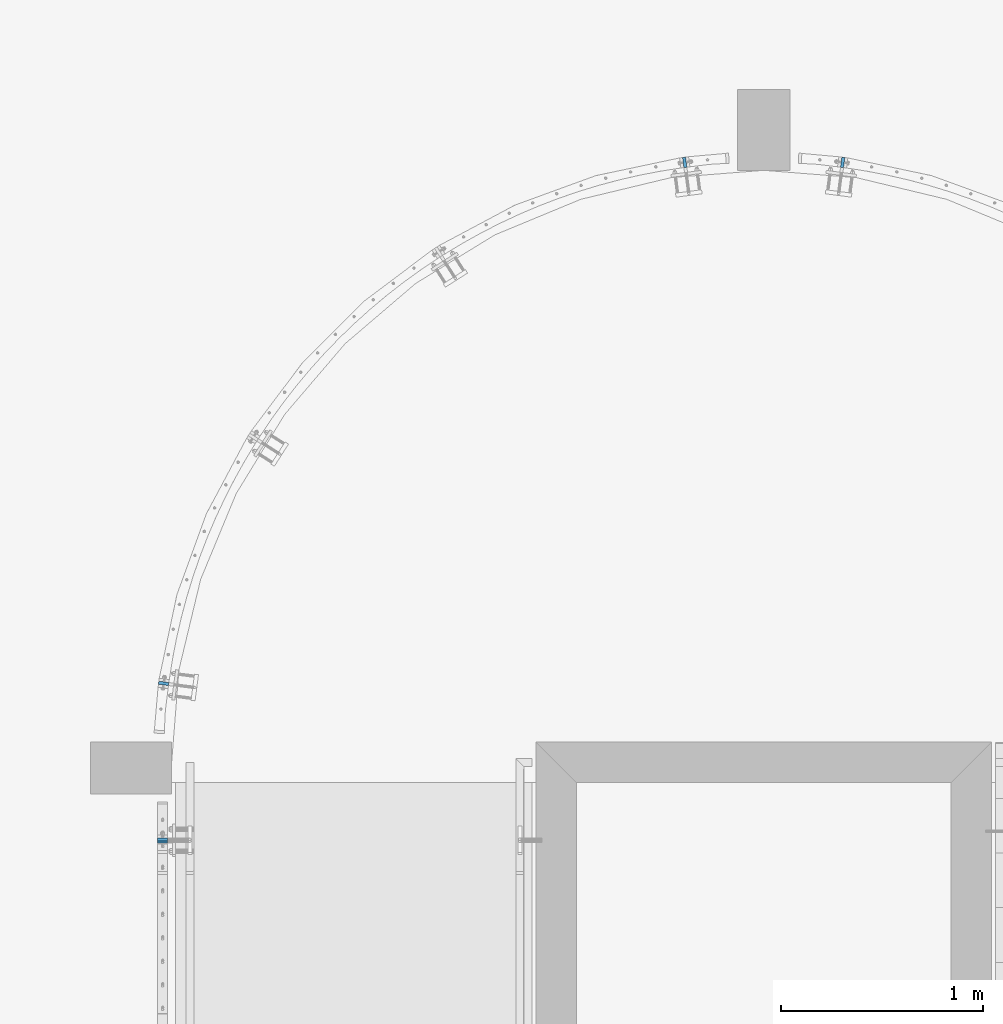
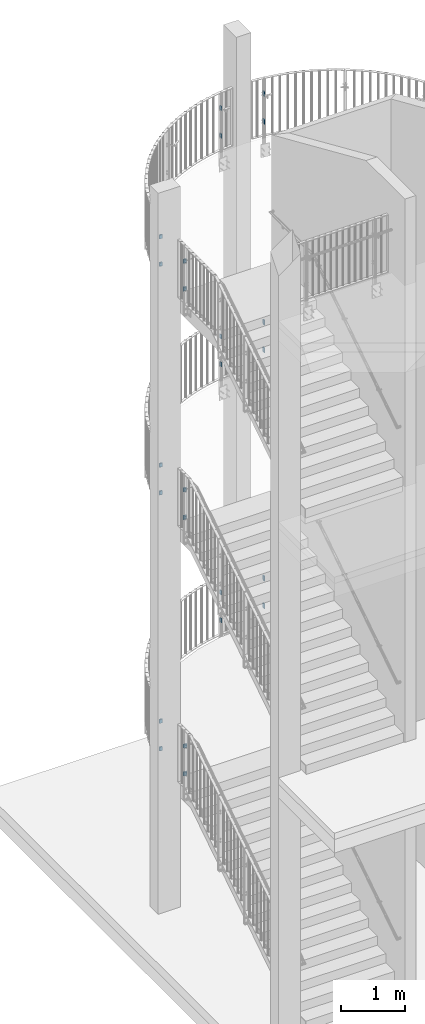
# One storey, part 124 of 296: 24 plates, 48 openings.
"""IFC2X3 building model written with IfcOpenShell, lengths in millimetres."""

import ifcopenshell
import ifcopenshell.guid

model = None  # the IFC model being written
_history = None  # IfcOwnerHistory: only IFC2X3 demands one
_inside = {}  # id of a spatial element -> (the spatial element, [elements in it])
_under = {}  # id of a project, library or spatial element -> (it, [spatial elements below it])
_declared = {}  # id of a project -> (the project, [libraries it declares])
_typed = {}  # id of a type object -> (the type object, [elements of that type])
_made_of = {}  # id of a material, layer set ... -> (it, [elements and type objects made of it])


def new_model(schema):
    """Start an empty IFC model of exactly this schema.

    Asked for "IFC4X3", IfcOpenShell would pick the latest addendum, in which some entities
    have other attributes; the version numbers below select the first issue.
    IFC2X3 requires an IfcOwnerHistory on every rooted entity: one is made here for all.
    """
    global model, _history
    if schema == "IFC4X3":
        model = ifcopenshell.file(schema_version=(4, 3, 0, 0))
    else:
        model = ifcopenshell.file(schema=schema)
    _inside.clear()
    _under.clear()
    _declared.clear()
    _typed.clear()
    _made_of.clear()
    _history = None
    if model.schema == "IFC2X3":
        org = make("IfcOrganization", Name="unknown")
        user = make(
            "IfcPersonAndOrganization",
            ThePerson=make("IfcPerson", FamilyName="unknown"),
            TheOrganization=org,
        )
        app = make(
            "IfcApplication",
            ApplicationDeveloper=org,
            Version="unknown",
            ApplicationFullName="unknown",
            ApplicationIdentifier="unknown",
        )
        _history = make(
            "IfcOwnerHistory",
            OwningUser=user,
            OwningApplication=app,
            ChangeAction="ADDED",
            CreationDate=0,
        )
    return model


def make(cls, **values):
    """One entity of the class cls with the attributes given. An attribute that is None is left unset."""
    return model.create_entity(
        cls, **{name: value for name, value in values.items() if value is not None}
    )


def entity(cls, *values):
    """Any entity or typed value of the class cls, its attributes in the order of the schema. None: left unset."""
    e = model.create_entity(cls)
    for i, value in enumerate(values):
        if value is not None:
            e[i] = value
    return e


def rooted(cls, **values):
    """An entity with a GlobalId (a new one), such as an element, a storey or a relation."""
    return make(cls, GlobalId=ifcopenshell.guid.new(), OwnerHistory=_history, **values)


def si_unit(unit_type, name, prefix=None):
    """IfcSIUnit, for example si_unit("LENGTHUNIT", "METRE", prefix="MILLI")."""
    return make("IfcSIUnit", UnitType=unit_type, Prefix=prefix, Name=name)


def converted_unit(unit_type, name, factor, base, dimensions=None, offset=None):
    """IfcConversionBasedUnit, such as the inch: factor (a typed value) times the base unit."""
    return make(
        "IfcConversionBasedUnit"
        if offset is None
        else "IfcConversionBasedUnitWithOffset",
        ConversionOffset=offset,
        Dimensions=None
        if dimensions is None
        else entity("IfcDimensionalExponents", *dimensions),
        UnitType=unit_type,
        Name=name,
        ConversionFactor=make(
            "IfcMeasureWithUnit", ValueComponent=factor, UnitComponent=base
        ),
    )


def assignment(units):
    """IfcUnitAssignment: the units of a project."""
    return None if units is None else make("IfcUnitAssignment", Units=units)


def point(xyz):
    """IfcCartesianPoint."""
    return None if xyz is None else make("IfcCartesianPoint", Coordinates=xyz)


def direction(xyz):
    """IfcDirection."""
    return None if xyz is None else make("IfcDirection", DirectionRatios=xyz)


def frame(location, z_axis=None, x_axis=None):
    """IfcAxis2Placement3D, a coordinate frame: its origin and axes. An axis left out is left unset."""
    return make(
        "IfcAxis2Placement3D",
        Location=point(location),
        Axis=direction(z_axis),
        RefDirection=direction(x_axis),
    )


def frame_2d(location, x_axis=None):
    """IfcAxis2Placement2D, a coordinate frame in the plane: its origin and x axis."""
    return make(
        "IfcAxis2Placement2D", Location=point(location), RefDirection=direction(x_axis)
    )


def origin():
    """The frame at (0, 0, 0) with its axes left unset."""
    return frame((0.0, 0.0, 0.0))


def origin_with_axes():
    """The frame at (0, 0, 0) with the z axis (0, 0, 1) and the x axis (1, 0, 0) written out."""
    return frame((0.0, 0.0, 0.0), z_axis=(0.0, 0.0, 1.0), x_axis=(1.0, 0.0, 0.0))


def place(relative_to, where):
    """IfcLocalPlacement: puts the frame where relative to a parent placement (None: the world)."""
    return make(
        "IfcLocalPlacement", PlacementRelTo=relative_to, RelativePlacement=where
    )


def context(
    kind, dimensions, precision=None, world=None, true_north=None, identifier=None
):
    """IfcGeometricRepresentationContext, for example the 3D "Model" context."""
    return make(
        "IfcGeometricRepresentationContext",
        ContextIdentifier=identifier,
        ContextType=kind,
        CoordinateSpaceDimension=dimensions,
        Precision=precision,
        WorldCoordinateSystem=world,
        TrueNorth=true_north,
    )


def project(units=None, contexts=None):
    """IfcProject with its units and contexts."""
    return rooted(
        "IfcProject",
        Name="project",
        RepresentationContexts=contexts,
        UnitsInContext=assignment(units),
    )


def spatial(cls, under=None, at=None, **own):
    """A site, building, storey or space (cls), placed at a placement, below another one or the project."""
    s = rooted(cls, ObjectPlacement=at, **own)
    if under is not None:
        _under.setdefault(under.id(), (under, []))[1].append(s)
    return s


def polyline(points):
    """IfcPolyline through the points."""
    return make("IfcPolyline", Points=[point(p) for p in points])


def profile(cls, at=None, kind="AREA", **sizes):
    """A parametric profile (cls). Its sizes go by their IFC names, for example OverallWidth=200.0."""
    return make(cls, ProfileType=kind, Position=at, **sizes)


def circle(**sizes):
    """IfcCircleProfileDef."""
    return profile("IfcCircleProfileDef", **sizes)


def outline(outer, holes=None, kind="AREA"):
    """IfcArbitraryClosedProfileDef: a profile drawn as a closed curve; with holes, ...WithVoids."""
    if holes is None:
        return make("IfcArbitraryClosedProfileDef", ProfileType=kind, OuterCurve=outer)
    return make(
        "IfcArbitraryProfileDefWithVoids",
        ProfileType=kind,
        OuterCurve=outer,
        InnerCurves=holes,
    )


def extrude(swept, where, along, depth):
    """IfcExtrudedAreaSolid: the profile swept, set in the frame where, extruded along a direction by depth."""
    return make(
        "IfcExtrudedAreaSolid",
        SweptArea=swept,
        Position=where,
        ExtrudedDirection=direction(along),
        Depth=depth,
    )


def shape(context_of_items, identifier, shape_type, items):
    """IfcShapeRepresentation: the items that make up one representation, for example the "Body"."""
    return make(
        "IfcShapeRepresentation",
        ContextOfItems=context_of_items,
        RepresentationIdentifier=identifier,
        RepresentationType=shape_type,
        Items=items,
    )


def material(Name=None, Category=None):
    """IfcMaterial."""
    return make("IfcMaterial", Name=Name, Category=Category)


def layer(
    of_material, thickness, ventilated=None, Name=None, Category=None, Priority=None
):
    """IfcMaterialLayer: one layer of a wall or slab, of a material (None: an air gap)."""
    return make(
        "IfcMaterialLayer",
        Material=of_material,
        LayerThickness=thickness,
        IsVentilated=ventilated,
        Name=Name,
        Category=Category,
        Priority=Priority,
    )


def layer_set(layers, Name=None):
    """IfcMaterialLayerSet."""
    return make("IfcMaterialLayerSet", MaterialLayers=layers, LayerSetName=Name)


def made_of(thing, what):
    """Note that an element or type object is made of a material, layer set ...; save() writes the relation."""
    if what is not None:
        _made_of.setdefault(what.id(), (what, []))[1].append(thing)
    return thing


def element(
    cls,
    number,
    at=None,
    inside=None,
    cuts=None,
    type_object=None,
    material=None,
    context=None,
    identifier="Body",
    shape_type=None,
    held_by="IfcProductDefinitionShape",
    body=None,
    shapes=None,
    **own,
):
    """One element of the class cls, such as IfcWall. Its Tag is "e" and its number.

    at: its placement. inside: the storey or other place that contains it. cuts: it is an
    opening in that element (IfcRelVoidsElement). A single representation is given by context,
    identifier, shape_type and body (its items); several are given by shapes. held_by: the class
    of the entity that holds the representations. save() writes the other relations.
    """
    e = rooted(cls, Tag="e%d" % number, ObjectPlacement=at, **own)
    if body is not None:
        shapes = [shape(context, identifier, shape_type, body)]
    if shapes is not None:
        e.Representation = make(held_by, Representations=shapes)
    if inside is not None:
        _inside.setdefault(inside.id(), (inside, []))[1].append(e)
    if cuts is not None:
        rooted(
            "IfcRelVoidsElement", RelatingBuildingElement=cuts, RelatedOpeningElement=e
        )
    if type_object is not None:
        _typed.setdefault(type_object.id(), (type_object, []))[1].append(e)
    return made_of(e, material)


def aggregate(whole, parts):
    """IfcRelAggregates: a whole, such as a stair, and the parts it consists of."""
    return rooted("IfcRelAggregates", RelatingObject=whole, RelatedObjects=parts)


def save(model, path):
    """Write the relations noted so far, then the file.

    IfcRelAggregates (storeys below a building ...), IfcRelContainedInSpatialStructure (elements
    in a storey), IfcRelDefinesByType, IfcRelAssociatesMaterial and IfcRelDeclares: one each for
    every whole, place, type object, material and project.
    """
    for whole, parts in _under.values():
        aggregate(whole, parts)
    for where, things in _inside.values():
        rooted(
            "IfcRelContainedInSpatialStructure",
            RelatedElements=things,
            RelatingStructure=where,
        )
    for kind, things in _typed.values():
        rooted("IfcRelDefinesByType", RelatedObjects=things, RelatingType=kind)
    for what, things in _made_of.values():
        rooted("IfcRelAssociatesMaterial", RelatedObjects=things, RelatingMaterial=what)
    for by, libraries in _declared.values():
        rooted("IfcRelDeclares", RelatingContext=by, RelatedDefinitions=libraries)
    model.write(path)


model = new_model("IFC2X3")

# Units and contexts
model_context = context("Model", 3, precision=1e-09, world=origin_with_axes())
ifc_project = project(units=[si_unit("LENGTHUNIT", "METRE", prefix="MILLI"), si_unit("AREAUNIT", "SQUARE_METRE"), si_unit("VOLUMEUNIT", "CUBIC_METRE"), converted_unit("PLANEANGLEUNIT", "DEGREE", entity("IfcPlaneAngleMeasure", 0.01745329), si_unit("PLANEANGLEUNIT", "RADIAN"), dimensions=[0, 0, 0, 0, 0, 0, 0])], contexts=[model_context])

# Site, building, storey
site_placement = place(None, origin_with_axes())
site = spatial("IfcSite", under=ifc_project, at=site_placement, Name="TZD-S?d | Treppenhausgel?nder", CompositionType="ELEMENT")
building_placement = place(site_placement, origin_with_axes())
building = spatial("IfcBuilding", under=site, at=building_placement, Name="Struktur 1", CompositionType="ELEMENT")
storey_placement = place(building_placement, origin_with_axes())
storey = spatial("IfcBuildingStorey", under=building, at=storey_placement, Name="Default Storey", CompositionType="ELEMENT", Elevation=0.0)

# Plate, openings
ifc_material = material(Name="S235JR")
ifc_layer = layer(ifc_material, 15.0)
ifc_layer_set = layer_set([ifc_layer], Name="S235JR")
plate_1_placement = place(None, frame((3307.837478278, 2865.399081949, 11990.001), z_axis=(-0.991444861, 0.130526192, 0.0), x_axis=(-0.130526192, -0.991444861, 0.0)))
plate_1 = element("IfcPlate", 1, at=plate_1_placement, inside=storey, material=ifc_layer_set, Name="Girder", ObjectType="Girder", context=model_context, shape_type="SweptSolid", body=[
    extrude(outline(polyline([(-25.0, -40.0), (25.0, -40.0), (25.0, 40.0), (-25.0, 40.0), (-25.0, -40.0)])), origin_with_axes(), (0.0, 0.0, -1.0), 15.0),
])
opening_1_placement = place(plate_1_placement, frame((-5.001, 24.999999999, 0.5), z_axis=(0.0, 0.0, 1.0), x_axis=(1.0, 0.0, 0.0)))
element("IfcOpeningElement", 2, at=opening_1_placement, cuts=plate_1, ObjectType="Opening", context=model_context, shape_type="SweptSolid", body=[
    extrude(circle(Radius=5.001, at=frame_2d((5.001, 0.0), x_axis=(1.0, 0.0))), origin(), (0.0, 0.0, -1.0), 16.0),
])
opening_2_placement = place(plate_1_placement, frame((-5.001, -25.000000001, 0.5), z_axis=(0.0, 0.0, 1.0), x_axis=(1.0, 0.0, 0.0)))
element("IfcOpeningElement", 3, at=opening_2_placement, cuts=plate_1, ObjectType="Opening", context=model_context, shape_type="SweptSolid", body=[
    extrude(circle(Radius=5.001, at=frame_2d((5.001, 0.0), x_axis=(1.0, 0.0))), origin(), (0.0, 0.0, -1.0), 16.0),
])

plate_2_placement = place(None, frame((3307.837478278, 2865.399081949, 12520.001), z_axis=(-0.991444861, 0.130526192, 0.0), x_axis=(-0.130526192, -0.991444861, 0.0)))
plate_2 = element("IfcPlate", 4, at=plate_2_placement, inside=storey, material=ifc_layer_set, Name="Girder", ObjectType="Girder", context=model_context, shape_type="SweptSolid", body=[
    extrude(outline(polyline([(-25.0, -40.0), (25.0, -40.0), (25.0, 40.0), (-25.0, 40.0), (-25.0, -40.0)])), origin_with_axes(), (0.0, 0.0, -1.0), 15.0),
])
opening_3_placement = place(plate_2_placement, frame((-5.001, 24.999999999, 0.5), z_axis=(0.0, 0.0, 1.0), x_axis=(1.0, 0.0, 0.0)))
element("IfcOpeningElement", 5, at=opening_3_placement, cuts=plate_2, ObjectType="Opening", context=model_context, shape_type="SweptSolid", body=[
    extrude(circle(Radius=5.001, at=frame_2d((5.001, 0.0), x_axis=(1.0, 0.0))), origin(), (0.0, 0.0, -1.0), 16.0),
])
opening_4_placement = place(plate_2_placement, frame((-5.001, -25.000000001, 0.5), z_axis=(0.0, 0.0, 1.0), x_axis=(1.0, 0.0, 0.0)))
element("IfcOpeningElement", 6, at=opening_4_placement, cuts=plate_2, ObjectType="Opening", context=model_context, shape_type="SweptSolid", body=[
    extrude(circle(Radius=5.001, at=frame_2d((5.001, 0.0), x_axis=(1.0, 0.0))), origin(), (0.0, 0.0, -1.0), 16.0),
])

plate_3_placement = place(None, frame((3307.837478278, 2865.399081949, 8145.001), z_axis=(-0.991444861, 0.130526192, 0.0), x_axis=(-0.130526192, -0.991444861, 0.0)))
plate_3 = element("IfcPlate", 7, at=plate_3_placement, inside=storey, material=ifc_layer_set, Name="Girder", ObjectType="Girder", context=model_context, shape_type="SweptSolid", body=[
    extrude(outline(polyline([(-25.0, -40.0), (25.0, -40.0), (25.0, 40.0), (-25.0, 40.0), (-25.0, -40.0)])), origin_with_axes(), (0.0, 0.0, -1.0), 15.0),
])
opening_5_placement = place(plate_3_placement, frame((-5.001, 24.999999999, 0.5), z_axis=(0.0, 0.0, 1.0), x_axis=(1.0, 0.0, 0.0)))
element("IfcOpeningElement", 8, at=opening_5_placement, cuts=plate_3, ObjectType="Opening", context=model_context, shape_type="SweptSolid", body=[
    extrude(circle(Radius=5.001, at=frame_2d((5.001, 0.0), x_axis=(1.0, 0.0))), origin(), (0.0, 0.0, -1.0), 16.0),
])
opening_6_placement = place(plate_3_placement, frame((-5.001, -25.000000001, 0.5), z_axis=(0.0, 0.0, 1.0), x_axis=(1.0, 0.0, 0.0)))
element("IfcOpeningElement", 9, at=opening_6_placement, cuts=plate_3, ObjectType="Opening", context=model_context, shape_type="SweptSolid", body=[
    extrude(circle(Radius=5.001, at=frame_2d((5.001, 0.0), x_axis=(1.0, 0.0))), origin(), (0.0, 0.0, -1.0), 16.0),
])

plate_4_placement = place(None, frame((3307.837478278, 2865.399081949, 7615.001), z_axis=(-0.991444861, 0.130526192, 0.0), x_axis=(-0.130526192, -0.991444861, 0.0)))
plate_4 = element("IfcPlate", 10, at=plate_4_placement, inside=storey, material=ifc_layer_set, Name="Girder", ObjectType="Girder", context=model_context, shape_type="SweptSolid", body=[
    extrude(outline(polyline([(-25.0, -40.0), (25.0, -40.0), (25.0, 40.0), (-25.0, 40.0), (-25.0, -40.0)])), origin_with_axes(), (0.0, 0.0, -1.0), 15.0),
])
opening_7_placement = place(plate_4_placement, frame((-5.001, 24.999999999, 0.5), z_axis=(0.0, 0.0, 1.0), x_axis=(1.0, 0.0, 0.0)))
element("IfcOpeningElement", 11, at=opening_7_placement, cuts=plate_4, ObjectType="Opening", context=model_context, shape_type="SweptSolid", body=[
    extrude(circle(Radius=5.001, at=frame_2d((5.001, 0.0), x_axis=(1.0, 0.0))), origin(), (0.0, 0.0, -1.0), 16.0),
])
opening_8_placement = place(plate_4_placement, frame((-5.001, -25.000000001, 0.5), z_axis=(0.0, 0.0, 1.0), x_axis=(1.0, 0.0, 0.0)))
element("IfcOpeningElement", 12, at=opening_8_placement, cuts=plate_4, ObjectType="Opening", context=model_context, shape_type="SweptSolid", body=[
    extrude(circle(Radius=5.001, at=frame_2d((5.001, 0.0), x_axis=(1.0, 0.0))), origin(), (0.0, 0.0, -1.0), 16.0),
])

plate_5_placement = place(None, frame((-38.441189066, 297.709151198, 7615.001), z_axis=(-0.130526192, -0.991444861, 0.0), x_axis=(0.991444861, -0.130526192, 0.0)))
plate_5 = element("IfcPlate", 13, at=plate_5_placement, inside=storey, material=ifc_layer_set, Name="Girder", ObjectType="Girder", context=model_context, shape_type="SweptSolid", body=[
    extrude(outline(polyline([(-25.0, -40.0), (25.0, -40.0), (25.0, 40.0), (-25.0, 40.0), (-25.0, -40.0)])), origin_with_axes(), (0.0, 0.0, 1.0), 15.0),
])
opening_9_placement = place(plate_5_placement, frame((0.0, -1e-09, -0.5), z_axis=(0.0, 0.0, 1.0), x_axis=(1.0, 0.0, 0.0)))
element("IfcOpeningElement", 14, at=opening_9_placement, cuts=plate_5, ObjectType="Opening", context=model_context, shape_type="SweptSolid", body=[
    extrude(circle(Radius=5.001, at=frame_2d((0.0, 25.0), x_axis=(1.0, 0.0))), origin(), (0.0, 0.0, 1.0), 16.0),
])
opening_10_placement = place(plate_5_placement, frame((0.0, -1e-09, -0.5), z_axis=(0.0, 0.0, 1.0), x_axis=(1.0, 0.0, 0.0)))
element("IfcOpeningElement", 15, at=opening_10_placement, cuts=plate_5, ObjectType="Opening", context=model_context, shape_type="SweptSolid", body=[
    extrude(circle(Radius=5.001, at=frame_2d((0.0, -25.0), x_axis=(1.0, 0.0))), origin(), (0.0, 0.0, 1.0), 16.0),
])

plate_6_placement = place(None, frame((-38.441189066, 297.709151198, 8145.001), z_axis=(-0.130526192, -0.991444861, 0.0), x_axis=(0.991444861, -0.130526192, 0.0)))
plate_6 = element("IfcPlate", 16, at=plate_6_placement, inside=storey, material=ifc_layer_set, Name="Girder", ObjectType="Girder", context=model_context, shape_type="SweptSolid", body=[
    extrude(outline(polyline([(-25.0, -40.0), (25.0, -40.0), (25.0, 40.0), (-25.0, 40.0), (-25.0, -40.0)])), origin_with_axes(), (0.0, 0.0, 1.0), 15.0),
])
opening_11_placement = place(plate_6_placement, frame((0.0, -1e-09, -0.5), z_axis=(0.0, 0.0, 1.0), x_axis=(1.0, 0.0, 0.0)))
element("IfcOpeningElement", 17, at=opening_11_placement, cuts=plate_6, ObjectType="Opening", context=model_context, shape_type="SweptSolid", body=[
    extrude(circle(Radius=5.001, at=frame_2d((0.0, 25.0), x_axis=(1.0, 0.0))), origin(), (0.0, 0.0, 1.0), 16.0),
])
opening_12_placement = place(plate_6_placement, frame((0.0, -1e-09, -0.5), z_axis=(0.0, 0.0, 1.0), x_axis=(1.0, 0.0, 0.0)))
element("IfcOpeningElement", 18, at=opening_12_placement, cuts=plate_6, ObjectType="Opening", context=model_context, shape_type="SweptSolid", body=[
    extrude(circle(Radius=5.001, at=frame_2d((0.0, -25.0), x_axis=(1.0, 0.0))), origin(), (0.0, 0.0, 1.0), 16.0),
])

plate_7_placement = place(None, frame((2542.162521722, 2865.399081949, 7615.001), z_axis=(-0.991444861, -0.130526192, 0.0), x_axis=(0.130526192, -0.991444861, 0.0)))
plate_7 = element("IfcPlate", 19, at=plate_7_placement, inside=storey, material=ifc_layer_set, Name="Girder", ObjectType="Girder", context=model_context, shape_type="SweptSolid", body=[
    extrude(outline(polyline([(-25.0, -40.0), (25.0, -40.0), (25.0, 40.0), (-25.0, 40.0), (-25.0, -40.0)])), origin_with_axes(), (0.0, 0.0, 1.0), 15.0),
])
opening_13_placement = place(plate_7_placement, frame((0.0, -1e-09, -0.5), z_axis=(0.0, 0.0, 1.0), x_axis=(1.0, 0.0, 0.0)))
element("IfcOpeningElement", 20, at=opening_13_placement, cuts=plate_7, ObjectType="Opening", context=model_context, shape_type="SweptSolid", body=[
    extrude(circle(Radius=5.001, at=frame_2d((0.0, 25.0), x_axis=(1.0, 0.0))), origin(), (0.0, 0.0, 1.0), 16.0),
])
opening_14_placement = place(plate_7_placement, frame((0.0, -1e-09, -0.5), z_axis=(0.0, 0.0, 1.0), x_axis=(1.0, 0.0, 0.0)))
element("IfcOpeningElement", 21, at=opening_14_placement, cuts=plate_7, ObjectType="Opening", context=model_context, shape_type="SweptSolid", body=[
    extrude(circle(Radius=5.001, at=frame_2d((0.0, -25.0), x_axis=(1.0, 0.0))), origin(), (0.0, 0.0, 1.0), 16.0),
])

plate_8_placement = place(None, frame((2542.162521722, 2865.399081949, 8145.001), z_axis=(-0.991444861, -0.130526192, 0.0), x_axis=(0.130526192, -0.991444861, 0.0)))
plate_8 = element("IfcPlate", 22, at=plate_8_placement, inside=storey, material=ifc_layer_set, Name="Girder", ObjectType="Girder", context=model_context, shape_type="SweptSolid", body=[
    extrude(outline(polyline([(-25.0, -40.0), (25.0, -40.0), (25.0, 40.0), (-25.0, 40.0), (-25.0, -40.0)])), origin_with_axes(), (0.0, 0.0, 1.0), 15.0),
])
opening_15_placement = place(plate_8_placement, frame((0.0, -1e-09, -0.5), z_axis=(0.0, 0.0, 1.0), x_axis=(1.0, 0.0, 0.0)))
element("IfcOpeningElement", 23, at=opening_15_placement, cuts=plate_8, ObjectType="Opening", context=model_context, shape_type="SweptSolid", body=[
    extrude(circle(Radius=5.001, at=frame_2d((0.0, 25.0), x_axis=(1.0, 0.0))), origin(), (0.0, 0.0, 1.0), 16.0),
])
opening_16_placement = place(plate_8_placement, frame((0.0, -1e-09, -0.5), z_axis=(0.0, 0.0, 1.0), x_axis=(1.0, 0.0, 0.0)))
element("IfcOpeningElement", 24, at=opening_16_placement, cuts=plate_8, ObjectType="Opening", context=model_context, shape_type="SweptSolid", body=[
    extrude(circle(Radius=5.001, at=frame_2d((0.0, -25.0), x_axis=(1.0, 0.0))), origin(), (0.0, 0.0, 1.0), 16.0),
])

plate_9_placement = place(None, frame((-45.0, -472.5, 11990.001), z_axis=(0.0, -1.0, 0.0), x_axis=(1.0, 0.0, 0.0)))
plate_9 = element("IfcPlate", 25, at=plate_9_placement, inside=storey, material=ifc_layer_set, Name="Girder", ObjectType="Girder", context=model_context, shape_type="SweptSolid", body=[
    extrude(outline(polyline([(-25.0, -40.0), (25.0, -40.0), (25.0, 40.0), (-25.0, 40.0), (-25.0, -40.0)])), origin_with_axes(), (0.0, 0.0, 1.0), 15.0),
])
opening_17_placement = place(plate_9_placement, frame((0.0, -1e-09, -0.5), z_axis=(0.0, 0.0, 1.0), x_axis=(1.0, 0.0, 0.0)))
element("IfcOpeningElement", 26, at=opening_17_placement, cuts=plate_9, ObjectType="Opening", context=model_context, shape_type="SweptSolid", body=[
    extrude(circle(Radius=5.001, at=frame_2d((0.0, 25.0), x_axis=(1.0, 0.0))), origin(), (0.0, 0.0, 1.0), 16.0),
])
opening_18_placement = place(plate_9_placement, frame((0.0, -1e-09, -0.5), z_axis=(0.0, 0.0, 1.0), x_axis=(1.0, 0.0, 0.0)))
element("IfcOpeningElement", 27, at=opening_18_placement, cuts=plate_9, ObjectType="Opening", context=model_context, shape_type="SweptSolid", body=[
    extrude(circle(Radius=5.001, at=frame_2d((0.0, -25.0), x_axis=(1.0, 0.0))), origin(), (0.0, 0.0, 1.0), 16.0),
])

plate_10_placement = place(None, frame((-45.0, -472.5, 12520.001), z_axis=(0.0, -1.0, 0.0), x_axis=(1.0, 0.0, 0.0)))
plate_10 = element("IfcPlate", 28, at=plate_10_placement, inside=storey, material=ifc_layer_set, Name="Girder", ObjectType="Girder", context=model_context, shape_type="SweptSolid", body=[
    extrude(outline(polyline([(-25.0, -40.0), (25.0, -40.0), (25.0, 40.0), (-25.0, 40.0), (-25.0, -40.0)])), origin_with_axes(), (0.0, 0.0, 1.0), 15.0),
])
opening_19_placement = place(plate_10_placement, frame((0.0, -1e-09, -0.5), z_axis=(0.0, 0.0, 1.0), x_axis=(1.0, 0.0, 0.0)))
element("IfcOpeningElement", 29, at=opening_19_placement, cuts=plate_10, ObjectType="Opening", context=model_context, shape_type="SweptSolid", body=[
    extrude(circle(Radius=5.001, at=frame_2d((0.0, 25.0), x_axis=(1.0, 0.0))), origin(), (0.0, 0.0, 1.0), 16.0),
])
opening_20_placement = place(plate_10_placement, frame((0.0, -1e-09, -0.5), z_axis=(0.0, 0.0, 1.0), x_axis=(1.0, 0.0, 0.0)))
element("IfcOpeningElement", 30, at=opening_20_placement, cuts=plate_10, ObjectType="Opening", context=model_context, shape_type="SweptSolid", body=[
    extrude(circle(Radius=5.001, at=frame_2d((0.0, -25.0), x_axis=(1.0, 0.0))), origin(), (0.0, 0.0, 1.0), 16.0),
])

plate_11_placement = place(None, frame((3307.837478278, 2865.399081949, 3245.001), z_axis=(-0.991444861, 0.130526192, 0.0), x_axis=(-0.130526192, -0.991444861, 0.0)))
plate_11 = element("IfcPlate", 31, at=plate_11_placement, inside=storey, material=ifc_layer_set, Name="Girder", ObjectType="Girder", context=model_context, shape_type="SweptSolid", body=[
    extrude(outline(polyline([(-25.0, -40.0), (25.0, -40.0), (25.0, 40.0), (-25.0, 40.0), (-25.0, -40.0)])), origin_with_axes(), (0.0, 0.0, -1.0), 15.0),
])
opening_21_placement = place(plate_11_placement, frame((-5.001, 24.999999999, 0.5), z_axis=(0.0, 0.0, 1.0), x_axis=(1.0, 0.0, 0.0)))
element("IfcOpeningElement", 32, at=opening_21_placement, cuts=plate_11, ObjectType="Opening", context=model_context, shape_type="SweptSolid", body=[
    extrude(circle(Radius=5.001, at=frame_2d((5.001, 0.0), x_axis=(1.0, 0.0))), origin(), (0.0, 0.0, -1.0), 16.0),
])
opening_22_placement = place(plate_11_placement, frame((-5.001, -25.000000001, 0.5), z_axis=(0.0, 0.0, 1.0), x_axis=(1.0, 0.0, 0.0)))
element("IfcOpeningElement", 33, at=opening_22_placement, cuts=plate_11, ObjectType="Opening", context=model_context, shape_type="SweptSolid", body=[
    extrude(circle(Radius=5.001, at=frame_2d((5.001, 0.0), x_axis=(1.0, 0.0))), origin(), (0.0, 0.0, -1.0), 16.0),
])

plate_12_placement = place(None, frame((3307.837478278, 2865.399081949, 2715.001), z_axis=(-0.991444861, 0.130526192, 0.0), x_axis=(-0.130526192, -0.991444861, 0.0)))
plate_12 = element("IfcPlate", 34, at=plate_12_placement, inside=storey, material=ifc_layer_set, Name="Girder", ObjectType="Girder", context=model_context, shape_type="SweptSolid", body=[
    extrude(outline(polyline([(-25.0, -40.0), (25.0, -40.0), (25.0, 40.0), (-25.0, 40.0), (-25.0, -40.0)])), origin_with_axes(), (0.0, 0.0, -1.0), 15.0),
])
opening_23_placement = place(plate_12_placement, frame((-5.001, 24.999999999, 0.5), z_axis=(0.0, 0.0, 1.0), x_axis=(1.0, 0.0, 0.0)))
element("IfcOpeningElement", 35, at=opening_23_placement, cuts=plate_12, ObjectType="Opening", context=model_context, shape_type="SweptSolid", body=[
    extrude(circle(Radius=5.001, at=frame_2d((5.001, 0.0), x_axis=(1.0, 0.0))), origin(), (0.0, 0.0, -1.0), 16.0),
])
opening_24_placement = place(plate_12_placement, frame((-5.001, -25.000000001, 0.5), z_axis=(0.0, 0.0, 1.0), x_axis=(1.0, 0.0, 0.0)))
element("IfcOpeningElement", 36, at=opening_24_placement, cuts=plate_12, ObjectType="Opening", context=model_context, shape_type="SweptSolid", body=[
    extrude(circle(Radius=5.001, at=frame_2d((5.001, 0.0), x_axis=(1.0, 0.0))), origin(), (0.0, 0.0, -1.0), 16.0),
])

plate_13_placement = place(None, frame((-38.441189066, 297.709151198, 2715.001), z_axis=(-0.130526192, -0.991444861, 0.0), x_axis=(0.991444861, -0.130526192, 0.0)))
plate_13 = element("IfcPlate", 37, at=plate_13_placement, inside=storey, material=ifc_layer_set, Name="Girder", ObjectType="Girder", context=model_context, shape_type="SweptSolid", body=[
    extrude(outline(polyline([(-25.0, -40.0), (25.0, -40.0), (25.0, 40.0), (-25.0, 40.0), (-25.0, -40.0)])), origin_with_axes(), (0.0, 0.0, 1.0), 15.0),
])
opening_25_placement = place(plate_13_placement, frame((0.0, -1e-09, -0.5), z_axis=(0.0, 0.0, 1.0), x_axis=(1.0, 0.0, 0.0)))
element("IfcOpeningElement", 38, at=opening_25_placement, cuts=plate_13, ObjectType="Opening", context=model_context, shape_type="SweptSolid", body=[
    extrude(circle(Radius=5.001, at=frame_2d((0.0, 25.0), x_axis=(1.0, 0.0))), origin(), (0.0, 0.0, 1.0), 16.0),
])
opening_26_placement = place(plate_13_placement, frame((0.0, -1e-09, -0.5), z_axis=(0.0, 0.0, 1.0), x_axis=(1.0, 0.0, 0.0)))
element("IfcOpeningElement", 39, at=opening_26_placement, cuts=plate_13, ObjectType="Opening", context=model_context, shape_type="SweptSolid", body=[
    extrude(circle(Radius=5.001, at=frame_2d((0.0, -25.0), x_axis=(1.0, 0.0))), origin(), (0.0, 0.0, 1.0), 16.0),
])

plate_14_placement = place(None, frame((-38.441189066, 297.709151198, 3245.001), z_axis=(-0.130526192, -0.991444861, 0.0), x_axis=(0.991444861, -0.130526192, 0.0)))
plate_14 = element("IfcPlate", 40, at=plate_14_placement, inside=storey, material=ifc_layer_set, Name="Girder", ObjectType="Girder", context=model_context, shape_type="SweptSolid", body=[
    extrude(outline(polyline([(-25.0, -40.0), (25.0, -40.0), (25.0, 40.0), (-25.0, 40.0), (-25.0, -40.0)])), origin_with_axes(), (0.0, 0.0, 1.0), 15.0),
])
opening_27_placement = place(plate_14_placement, frame((0.0, -1e-09, -0.5), z_axis=(0.0, 0.0, 1.0), x_axis=(1.0, 0.0, 0.0)))
element("IfcOpeningElement", 41, at=opening_27_placement, cuts=plate_14, ObjectType="Opening", context=model_context, shape_type="SweptSolid", body=[
    extrude(circle(Radius=5.001, at=frame_2d((0.0, 25.0), x_axis=(1.0, 0.0))), origin(), (0.0, 0.0, 1.0), 16.0),
])
opening_28_placement = place(plate_14_placement, frame((0.0, -1e-09, -0.5), z_axis=(0.0, 0.0, 1.0), x_axis=(1.0, 0.0, 0.0)))
element("IfcOpeningElement", 42, at=opening_28_placement, cuts=plate_14, ObjectType="Opening", context=model_context, shape_type="SweptSolid", body=[
    extrude(circle(Radius=5.001, at=frame_2d((0.0, -25.0), x_axis=(1.0, 0.0))), origin(), (0.0, 0.0, 1.0), 16.0),
])

plate_15_placement = place(None, frame((-38.441189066, 297.709151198, 11990.001), z_axis=(-0.130526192, -0.991444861, 0.0), x_axis=(0.991444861, -0.130526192, 0.0)))
plate_15 = element("IfcPlate", 43, at=plate_15_placement, inside=storey, material=ifc_layer_set, Name="Girder", ObjectType="Girder", context=model_context, shape_type="SweptSolid", body=[
    extrude(outline(polyline([(-25.0, -40.0), (25.0, -40.0), (25.0, 40.0), (-25.0, 40.0), (-25.0, -40.0)])), origin_with_axes(), (0.0, 0.0, 1.0), 15.0),
])
opening_29_placement = place(plate_15_placement, frame((0.0, -1e-09, -0.5), z_axis=(0.0, 0.0, 1.0), x_axis=(1.0, 0.0, 0.0)))
element("IfcOpeningElement", 44, at=opening_29_placement, cuts=plate_15, ObjectType="Opening", context=model_context, shape_type="SweptSolid", body=[
    extrude(circle(Radius=5.001, at=frame_2d((0.0, 25.0), x_axis=(1.0, 0.0))), origin(), (0.0, 0.0, 1.0), 16.0),
])
opening_30_placement = place(plate_15_placement, frame((0.0, -1e-09, -0.5), z_axis=(0.0, 0.0, 1.0), x_axis=(1.0, 0.0, 0.0)))
element("IfcOpeningElement", 45, at=opening_30_placement, cuts=plate_15, ObjectType="Opening", context=model_context, shape_type="SweptSolid", body=[
    extrude(circle(Radius=5.001, at=frame_2d((0.0, -25.0), x_axis=(1.0, 0.0))), origin(), (0.0, 0.0, 1.0), 16.0),
])

plate_16_placement = place(None, frame((-38.441189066, 297.709151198, 12520.001), z_axis=(-0.130526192, -0.991444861, 0.0), x_axis=(0.991444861, -0.130526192, 0.0)))
plate_16 = element("IfcPlate", 46, at=plate_16_placement, inside=storey, material=ifc_layer_set, Name="Girder", ObjectType="Girder", context=model_context, shape_type="SweptSolid", body=[
    extrude(outline(polyline([(-25.0, -40.0), (25.0, -40.0), (25.0, 40.0), (-25.0, 40.0), (-25.0, -40.0)])), origin_with_axes(), (0.0, 0.0, 1.0), 15.0),
])
opening_31_placement = place(plate_16_placement, frame((0.0, -1e-09, -0.5), z_axis=(0.0, 0.0, 1.0), x_axis=(1.0, 0.0, 0.0)))
element("IfcOpeningElement", 47, at=opening_31_placement, cuts=plate_16, ObjectType="Opening", context=model_context, shape_type="SweptSolid", body=[
    extrude(circle(Radius=5.001, at=frame_2d((0.0, 25.0), x_axis=(1.0, 0.0))), origin(), (0.0, 0.0, 1.0), 16.0),
])
opening_32_placement = place(plate_16_placement, frame((0.0, -1e-09, -0.5), z_axis=(0.0, 0.0, 1.0), x_axis=(1.0, 0.0, 0.0)))
element("IfcOpeningElement", 48, at=opening_32_placement, cuts=plate_16, ObjectType="Opening", context=model_context, shape_type="SweptSolid", body=[
    extrude(circle(Radius=5.001, at=frame_2d((0.0, -25.0), x_axis=(1.0, 0.0))), origin(), (0.0, 0.0, 1.0), 16.0),
])

plate_17_placement = place(None, frame((2542.162521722, 2865.399081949, 2715.001), z_axis=(-0.991444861, -0.130526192, 0.0), x_axis=(0.130526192, -0.991444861, 0.0)))
plate_17 = element("IfcPlate", 49, at=plate_17_placement, inside=storey, material=ifc_layer_set, Name="Girder", ObjectType="Girder", context=model_context, shape_type="SweptSolid", body=[
    extrude(outline(polyline([(-25.0, -40.0), (25.0, -40.0), (25.0, 40.0), (-25.0, 40.0), (-25.0, -40.0)])), origin_with_axes(), (0.0, 0.0, 1.0), 15.0),
])
opening_33_placement = place(plate_17_placement, frame((0.0, -1e-09, -0.5), z_axis=(0.0, 0.0, 1.0), x_axis=(1.0, 0.0, 0.0)))
element("IfcOpeningElement", 50, at=opening_33_placement, cuts=plate_17, ObjectType="Opening", context=model_context, shape_type="SweptSolid", body=[
    extrude(circle(Radius=5.001, at=frame_2d((0.0, 25.0), x_axis=(1.0, 0.0))), origin(), (0.0, 0.0, 1.0), 16.0),
])
opening_34_placement = place(plate_17_placement, frame((0.0, -1e-09, -0.5), z_axis=(0.0, 0.0, 1.0), x_axis=(1.0, 0.0, 0.0)))
element("IfcOpeningElement", 51, at=opening_34_placement, cuts=plate_17, ObjectType="Opening", context=model_context, shape_type="SweptSolid", body=[
    extrude(circle(Radius=5.001, at=frame_2d((0.0, -25.0), x_axis=(1.0, 0.0))), origin(), (0.0, 0.0, 1.0), 16.0),
])

plate_18_placement = place(None, frame((2542.162521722, 2865.399081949, 3245.001), z_axis=(-0.991444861, -0.130526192, 0.0), x_axis=(0.130526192, -0.991444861, 0.0)))
plate_18 = element("IfcPlate", 52, at=plate_18_placement, inside=storey, material=ifc_layer_set, Name="Girder", ObjectType="Girder", context=model_context, shape_type="SweptSolid", body=[
    extrude(outline(polyline([(-25.0, -40.0), (25.0, -40.0), (25.0, 40.0), (-25.0, 40.0), (-25.0, -40.0)])), origin_with_axes(), (0.0, 0.0, 1.0), 15.0),
])
opening_35_placement = place(plate_18_placement, frame((0.0, -1e-09, -0.5), z_axis=(0.0, 0.0, 1.0), x_axis=(1.0, 0.0, 0.0)))
element("IfcOpeningElement", 53, at=opening_35_placement, cuts=plate_18, ObjectType="Opening", context=model_context, shape_type="SweptSolid", body=[
    extrude(circle(Radius=5.001, at=frame_2d((0.0, 25.0), x_axis=(1.0, 0.0))), origin(), (0.0, 0.0, 1.0), 16.0),
])
opening_36_placement = place(plate_18_placement, frame((0.0, -1e-09, -0.5), z_axis=(0.0, 0.0, 1.0), x_axis=(1.0, 0.0, 0.0)))
element("IfcOpeningElement", 54, at=opening_36_placement, cuts=plate_18, ObjectType="Opening", context=model_context, shape_type="SweptSolid", body=[
    extrude(circle(Radius=5.001, at=frame_2d((0.0, -25.0), x_axis=(1.0, 0.0))), origin(), (0.0, 0.0, 1.0), 16.0),
])

plate_19_placement = place(None, frame((2542.162521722, 2865.399081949, 11990.001), z_axis=(-0.991444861, -0.130526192, 0.0), x_axis=(0.130526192, -0.991444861, 0.0)))
plate_19 = element("IfcPlate", 55, at=plate_19_placement, inside=storey, material=ifc_layer_set, Name="Girder", ObjectType="Girder", context=model_context, shape_type="SweptSolid", body=[
    extrude(outline(polyline([(-25.0, -40.0), (25.0, -40.0), (25.0, 40.0), (-25.0, 40.0), (-25.0, -40.0)])), origin_with_axes(), (0.0, 0.0, 1.0), 15.0),
])
opening_37_placement = place(plate_19_placement, frame((0.0, -1e-09, -0.5), z_axis=(0.0, 0.0, 1.0), x_axis=(1.0, 0.0, 0.0)))
element("IfcOpeningElement", 56, at=opening_37_placement, cuts=plate_19, ObjectType="Opening", context=model_context, shape_type="SweptSolid", body=[
    extrude(circle(Radius=5.001, at=frame_2d((0.0, 25.0), x_axis=(1.0, 0.0))), origin(), (0.0, 0.0, 1.0), 16.0),
])
opening_38_placement = place(plate_19_placement, frame((0.0, -1e-09, -0.5), z_axis=(0.0, 0.0, 1.0), x_axis=(1.0, 0.0, 0.0)))
element("IfcOpeningElement", 57, at=opening_38_placement, cuts=plate_19, ObjectType="Opening", context=model_context, shape_type="SweptSolid", body=[
    extrude(circle(Radius=5.001, at=frame_2d((0.0, -25.0), x_axis=(1.0, 0.0))), origin(), (0.0, 0.0, 1.0), 16.0),
])

plate_20_placement = place(None, frame((2542.162521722, 2865.399081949, 12520.001), z_axis=(-0.991444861, -0.130526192, 0.0), x_axis=(0.130526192, -0.991444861, 0.0)))
plate_20 = element("IfcPlate", 58, at=plate_20_placement, inside=storey, material=ifc_layer_set, Name="Girder", ObjectType="Girder", context=model_context, shape_type="SweptSolid", body=[
    extrude(outline(polyline([(-25.0, -40.0), (25.0, -40.0), (25.0, 40.0), (-25.0, 40.0), (-25.0, -40.0)])), origin_with_axes(), (0.0, 0.0, 1.0), 15.0),
])
opening_39_placement = place(plate_20_placement, frame((0.0, -1e-09, -0.5), z_axis=(0.0, 0.0, 1.0), x_axis=(1.0, 0.0, 0.0)))
element("IfcOpeningElement", 59, at=opening_39_placement, cuts=plate_20, ObjectType="Opening", context=model_context, shape_type="SweptSolid", body=[
    extrude(circle(Radius=5.001, at=frame_2d((0.0, 25.0), x_axis=(1.0, 0.0))), origin(), (0.0, 0.0, 1.0), 16.0),
])
opening_40_placement = place(plate_20_placement, frame((0.0, -1e-09, -0.5), z_axis=(0.0, 0.0, 1.0), x_axis=(1.0, 0.0, 0.0)))
element("IfcOpeningElement", 60, at=opening_40_placement, cuts=plate_20, ObjectType="Opening", context=model_context, shape_type="SweptSolid", body=[
    extrude(circle(Radius=5.001, at=frame_2d((0.0, -25.0), x_axis=(1.0, 0.0))), origin(), (0.0, 0.0, 1.0), 16.0),
])

plate_21_placement = place(None, frame((-45.0, -472.5, 7615.0), z_axis=(0.0, -1.0, 0.0), x_axis=(1.0, 0.0, 0.0)))
plate_21 = element("IfcPlate", 61, at=plate_21_placement, inside=storey, material=ifc_layer_set, Name="Girder", ObjectType="Girder", context=model_context, shape_type="SweptSolid", body=[
    extrude(outline(polyline([(-25.0, -40.0), (25.0, -40.0), (25.0, 40.0), (-25.0, 40.0), (-25.0, -40.0)])), origin_with_axes(), (0.0, 0.0, 1.0), 15.0),
])
opening_41_placement = place(plate_21_placement, frame((0.0, -1e-09, -0.5), z_axis=(0.0, 0.0, 1.0), x_axis=(1.0, 0.0, 0.0)))
element("IfcOpeningElement", 62, at=opening_41_placement, cuts=plate_21, ObjectType="Opening", context=model_context, shape_type="SweptSolid", body=[
    extrude(circle(Radius=5.001, at=frame_2d((0.0, 25.0), x_axis=(1.0, 0.0))), origin(), (0.0, 0.0, 1.0), 16.0),
])
opening_42_placement = place(plate_21_placement, frame((0.0, -1e-09, -0.5), z_axis=(0.0, 0.0, 1.0), x_axis=(1.0, 0.0, 0.0)))
element("IfcOpeningElement", 63, at=opening_42_placement, cuts=plate_21, ObjectType="Opening", context=model_context, shape_type="SweptSolid", body=[
    extrude(circle(Radius=5.001, at=frame_2d((0.0, -25.0), x_axis=(1.0, 0.0))), origin(), (0.0, 0.0, 1.0), 16.0),
])

plate_22_placement = place(None, frame((-45.0, -472.5, 8145.0), z_axis=(0.0, -1.0, 0.0), x_axis=(1.0, 0.0, 0.0)))
plate_22 = element("IfcPlate", 64, at=plate_22_placement, inside=storey, material=ifc_layer_set, Name="Girder", ObjectType="Girder", context=model_context, shape_type="SweptSolid", body=[
    extrude(outline(polyline([(-25.0, -40.0), (25.0, -40.0), (25.0, 40.0), (-25.0, 40.0), (-25.0, -40.0)])), origin_with_axes(), (0.0, 0.0, 1.0), 15.0),
])
opening_43_placement = place(plate_22_placement, frame((0.0, -1e-09, -0.5), z_axis=(0.0, 0.0, 1.0), x_axis=(1.0, 0.0, 0.0)))
element("IfcOpeningElement", 65, at=opening_43_placement, cuts=plate_22, ObjectType="Opening", context=model_context, shape_type="SweptSolid", body=[
    extrude(circle(Radius=5.001, at=frame_2d((0.0, 25.0), x_axis=(1.0, 0.0))), origin(), (0.0, 0.0, 1.0), 16.0),
])
opening_44_placement = place(plate_22_placement, frame((0.0, -1e-09, -0.5), z_axis=(0.0, 0.0, 1.0), x_axis=(1.0, 0.0, 0.0)))
element("IfcOpeningElement", 66, at=opening_44_placement, cuts=plate_22, ObjectType="Opening", context=model_context, shape_type="SweptSolid", body=[
    extrude(circle(Radius=5.001, at=frame_2d((0.0, -25.0), x_axis=(1.0, 0.0))), origin(), (0.0, 0.0, 1.0), 16.0),
])

plate_23_placement = place(None, frame((-45.0, -482.5, 2714.999), z_axis=(0.0, -1.0, 0.0), x_axis=(1.0, 0.0, 0.0)))
plate_23 = element("IfcPlate", 67, at=plate_23_placement, inside=storey, material=ifc_layer_set, Name="Girder", ObjectType="Girder", context=model_context, shape_type="SweptSolid", body=[
    extrude(outline(polyline([(-25.0, -40.0), (25.0, -40.0), (25.0, 40.0), (-25.0, 40.0), (-25.0, -40.0)])), origin_with_axes(), (0.0, 0.0, 1.0), 15.0),
])
opening_45_placement = place(plate_23_placement, frame((0.0, -1e-09, -0.5), z_axis=(0.0, 0.0, 1.0), x_axis=(1.0, 0.0, 0.0)))
element("IfcOpeningElement", 68, at=opening_45_placement, cuts=plate_23, ObjectType="Opening", context=model_context, shape_type="SweptSolid", body=[
    extrude(circle(Radius=5.001, at=frame_2d((0.0, 25.0), x_axis=(1.0, 0.0))), origin(), (0.0, 0.0, 1.0), 16.0),
])
opening_46_placement = place(plate_23_placement, frame((0.0, -1e-09, -0.5), z_axis=(0.0, 0.0, 1.0), x_axis=(1.0, 0.0, 0.0)))
element("IfcOpeningElement", 69, at=opening_46_placement, cuts=plate_23, ObjectType="Opening", context=model_context, shape_type="SweptSolid", body=[
    extrude(circle(Radius=5.001, at=frame_2d((0.0, -25.0), x_axis=(1.0, 0.0))), origin(), (0.0, 0.0, 1.0), 16.0),
])

plate_24_placement = place(None, frame((-45.0, -482.5, 3244.999), z_axis=(0.0, -1.0, 0.0), x_axis=(1.0, 0.0, 0.0)))
plate_24 = element("IfcPlate", 70, at=plate_24_placement, inside=storey, material=ifc_layer_set, Name="Girder", ObjectType="Girder", context=model_context, shape_type="SweptSolid", body=[
    extrude(outline(polyline([(-25.0, -40.0), (25.0, -40.0), (25.0, 40.0), (-25.0, 40.0), (-25.0, -40.0)])), origin_with_axes(), (0.0, 0.0, 1.0), 15.0),
])
opening_47_placement = place(plate_24_placement, frame((0.0, -1e-09, -0.5), z_axis=(0.0, 0.0, 1.0), x_axis=(1.0, 0.0, 0.0)))
element("IfcOpeningElement", 71, at=opening_47_placement, cuts=plate_24, ObjectType="Opening", context=model_context, shape_type="SweptSolid", body=[
    extrude(circle(Radius=5.001, at=frame_2d((0.0, 25.0), x_axis=(1.0, 0.0))), origin(), (0.0, 0.0, 1.0), 16.0),
])
opening_48_placement = place(plate_24_placement, frame((0.0, -1e-09, -0.5), z_axis=(0.0, 0.0, 1.0), x_axis=(1.0, 0.0, 0.0)))
element("IfcOpeningElement", 72, at=opening_48_placement, cuts=plate_24, ObjectType="Opening", context=model_context, shape_type="SweptSolid", body=[
    extrude(circle(Radius=5.001, at=frame_2d((0.0, -25.0), x_axis=(1.0, 0.0))), origin(), (0.0, 0.0, 1.0), 16.0),
])

save(model, "model.ifc")
